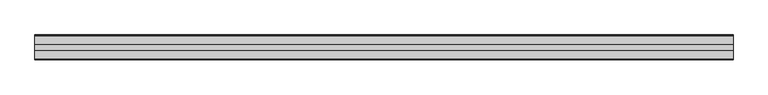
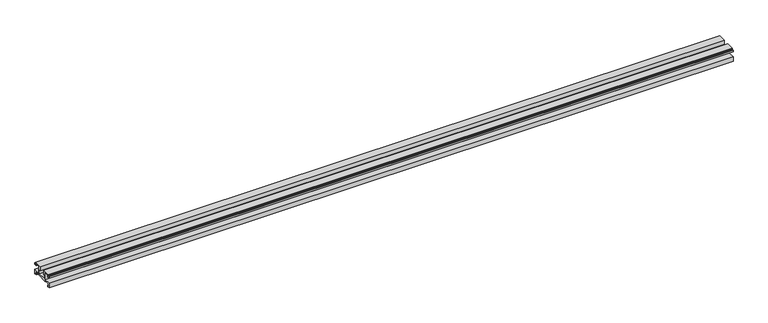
"""IFC4 building model written with IfcOpenShell, lengths in millimetres: proxy geometry, Weiku - Montante - Acoplamento vidro : Weiku - Montante - Acoplamento vidro."""

from ifc_helpers import new_model, si_unit, frame, origin, place, context, project, spatial, polyline, outline, extrude, source, transform, mapped, element, save


def generic_models_94a2b3ca(model_context):
    return source(origin(), model_context, "Body", "SweptSolid", [
        extrude(outline(polyline([(35.405, 5.1494), (12.495, 5.1494), (12.495, 6.8004), (2.159, 6.8004), (2.159, 2.6094), (4.0216, 2.6094), (4.0216, 0.0), (-0.0014508, 0.0), (-0.0014508, 8.79), (12.954, 8.79), (12.954, 23.3104), (4.3603, 23.3104), (4.3603, 19.204), (0.0, 19.204), (0.0, 22.8024), (0.9736, 22.8024), (0.9736, 20.3894), (3.175, 20.3894), (3.175, 23.9454), (2.3735496, 23.9454), (2.3735496, 25.3), (17.4836, 25.3), (17.4836, 16.283), (15.4516, 16.283), (15.4516, 8.8), (32.4484, 8.8), (32.4484, 16.283), (30.4164, 16.283), (30.4164, 25.3), (45.5264504, 25.3), (45.5264504, 23.9454), (44.725, 23.9454), (44.725, 20.3894), (46.9264, 20.3894), (46.9264, 22.8024), (47.9, 22.8024), (47.9, 19.204), (43.5397, 19.204), (43.5397, 23.3104), (34.946, 23.3104), (34.946, 8.79), (47.9014508, 8.79), (47.9014508, 0.0), (43.8784, 0.0), (43.8784, 2.6094), (45.741, 2.6094), (45.741, 6.8004), (35.405, 6.8004), (35.405, 5.1494)])), frame((-668.0666667, 0.0, 0.0), z_axis=(1.0, 0.0, 0.0), x_axis=(0.0, 1.0, 0.0)), (0.0, 0.0, 1.0), 1336.1333333),
    ])


if __name__ == "__main__":
    model = new_model("IFC4")
    model_context = context("Model", 3, world=origin())
    ifc_project = project(units=[si_unit("LENGTHUNIT", "METRE", prefix="MILLI")], contexts=[model_context])
    site = spatial("IfcSite", under=ifc_project)
    building = spatial("IfcBuilding", under=site)
    placement = place(None, origin())
    generic_models_shape = generic_models_94a2b3ca(model_context)
    element("IfcBuildingElementProxy", 1, Name="Weiku - Montante - Acoplamento vidro : Weiku - Montante - Acoplamento vidro", ObjectType="Weiku - Montante - Acoplamento vidro : Weiku - Montante - Acoplamento vidro", at=placement, inside=building, context=model_context, shape_type="MappedRepresentation", body=[
        mapped(generic_models_shape, transform((0.0, 0.0, 0.0), x_axis=(1.0, 0.0, 0.0), y_axis=(0.0, 1.0, 0.0), z_axis=(0.0, 0.0, 1.0))),
    ])
    save(model, "model.ifc")
